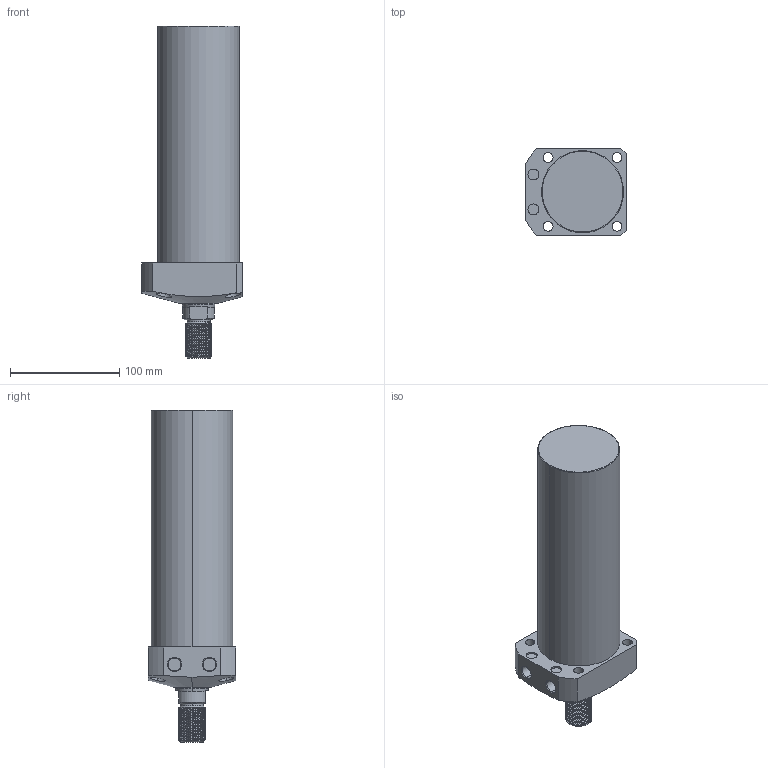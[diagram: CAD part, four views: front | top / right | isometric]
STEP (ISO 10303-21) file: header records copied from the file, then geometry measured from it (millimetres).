
FILE_DESCRIPTION (( 'STEP AP203' ), '1' );
FILE_NAME ('CLL-075CT-180.STEP', '2020-01-08T12:18:45', ( '' ), ( '' ), 'SwSTEP 2.0', 'SolidWorks 2015', '' );
FILE_SCHEMA (( 'CONFIG_CONTROL_DESIGN' ));
Length unit declared in the file: millimetre
Products named in the file (1): CLL-075CT-180
Bounding box: 92 x 80 x 304 mm (x, y, z)
Volume: 1200001.5 mm3; surface area: 85878.3 mm2
Topology: 1 solids, 1 shells, 120 faces, 307 edges, 200 vertices
Faces by surface type: cylinder 77, plane 23, cone 16, torus 2, bspline 2
Entity records: 6488 total; most frequent: CARTESIAN_POINT 3721, ORIENTED_EDGE 614, DIRECTION 514, EDGE_CURVE 307, AXIS2_PLACEMENT_3D 203, VERTEX_POINT 200, EDGE_LOOP 139, ADVANCED_FACE 120
